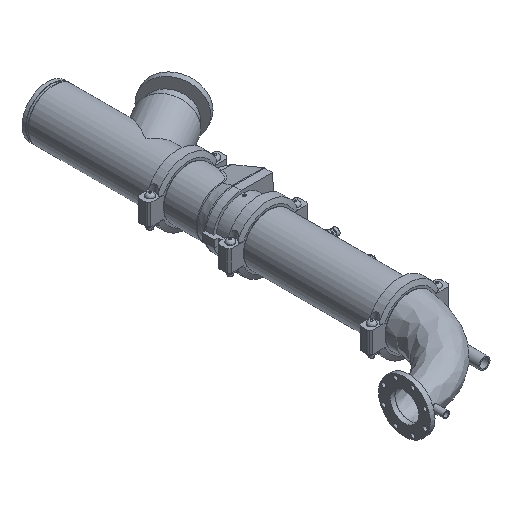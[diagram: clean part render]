
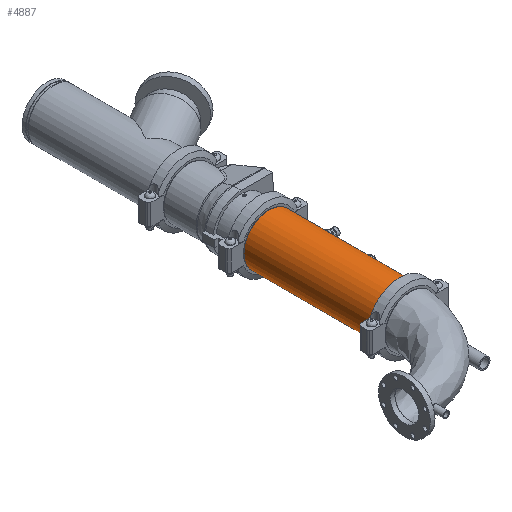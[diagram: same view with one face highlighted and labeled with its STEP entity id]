
A CAD part, isometric view. The second image highlights one B-rep face of the part: STEP entity #4887.
In plain terms, the highlighted cylindrical face has radius 136.525 mm (diameter 273.05 mm), a full revolution.
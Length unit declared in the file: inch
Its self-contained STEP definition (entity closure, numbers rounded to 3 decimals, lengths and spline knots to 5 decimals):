
#797=CYLINDRICAL_SURFACE('',#5212,5.375);
#904=FACE_BOUND('',#1373,.T.);
#1058=FACE_OUTER_BOUND('',#1372,.T.);
#1372=EDGE_LOOP('',(#3147));
#1373=EDGE_LOOP('',(#3148));
#1834=CIRCLE('',#5211,5.375);
#1835=CIRCLE('',#5213,5.375);
#2074=VERTEX_POINT('',#7262);
#2075=VERTEX_POINT('',#7265);
#2524=EDGE_CURVE('',#2074,#2074,#1834,.T.);
#2525=EDGE_CURVE('',#2075,#2075,#1835,.T.);
#3147=ORIENTED_EDGE('',*,*,#2525,.F.);
#3148=ORIENTED_EDGE('',*,*,#2524,.T.);
#4887=ADVANCED_FACE('',(#1058,#904),#797,.T.);
#5211=AXIS2_PLACEMENT_3D('',#7263,#5793,#5794);
#5212=AXIS2_PLACEMENT_3D('',#7264,#5795,#5796);
#5213=AXIS2_PLACEMENT_3D('',#7266,#5797,#5798);
#5793=DIRECTION('center_axis',(1.,0.,0.));
#5794=DIRECTION('ref_axis',(0.,0.,-1.));
#5795=DIRECTION('center_axis',(1.,0.,0.));
#5796=DIRECTION('ref_axis',(0.,1.,0.));
#5797=DIRECTION('center_axis',(1.,0.,0.));
#5798=DIRECTION('ref_axis',(0.,0.,-1.));
#7262=CARTESIAN_POINT('',(-13.77725,5.375,0.));
#7263=CARTESIAN_POINT('Origin',(-13.77725,0.,0.));
#7264=CARTESIAN_POINT('Origin',(0.,0.,0.));
#7265=CARTESIAN_POINT('',(13.77725,5.375,0.));
#7266=CARTESIAN_POINT('Origin',(13.77725,0.,0.));
